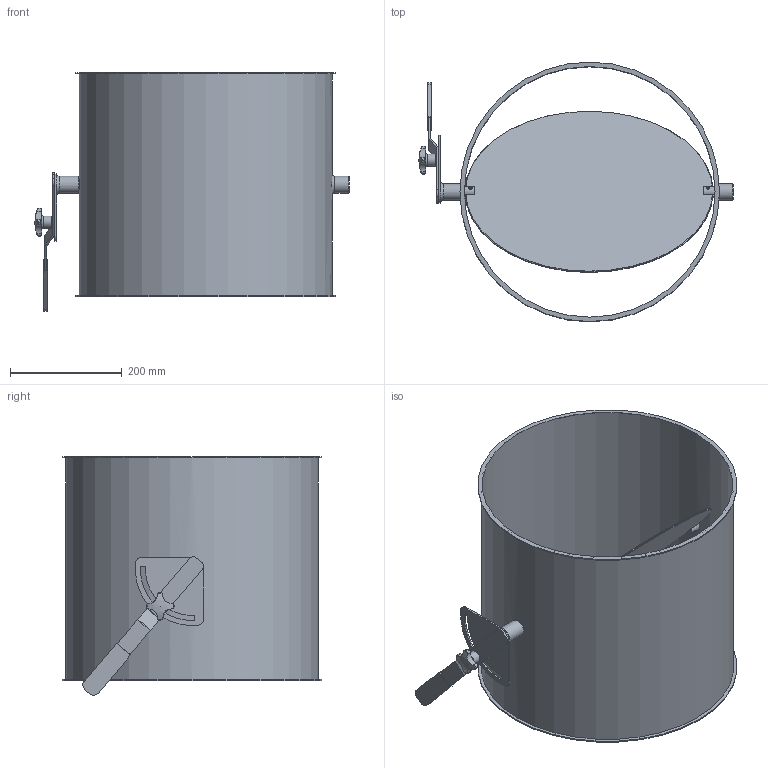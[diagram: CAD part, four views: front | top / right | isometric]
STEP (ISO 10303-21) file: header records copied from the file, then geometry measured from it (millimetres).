
FILE_DESCRIPTION((''),'2;1');
FILE_NAME('U:\Wolfgang\Marcel-3D\fertig\Kapitel 8\4521075.stp','2012-01-13T11:23:33',('iwienholt'),(''),'Autodesk Inventor 2010','Autodesk Inventor 2010','');
FILE_SCHEMA(('AUTOMOTIVE_DESIGN { 1 0 10303 214 1 1 1 1 }'));
Length unit declared in the file: millimetre
Products named in the file (7): 4521075; Bolzen D20; ganter_din_6335-ku-50-m10-k; Griff D20; Scheibe450; Umstellsegment D20; 4521075-1
Assembly tree (6 placements, depth 2):
  4521075
    Bolzen D20
    ganter_din_6335-ku-50-m10-k
    Griff D20
    Scheibe450
    Umstellsegment D20
    4521075-1
Bounding box: 562 x 464 x 426.07 mm (x, y, z)
Volume: 1790182.8 mm3; surface area: 1552857.4 mm2
Topology: 6 solids, 6 shells, 119 faces, 304 edges, 206 vertices
Faces by surface type: plane 51, cylinder 46, torus 9, bspline 7, cone 5, sphere 1
Full cylindrical faces by diameter (mm): 6 x4, 8 x1, 9 x1, 10 x2, 16 x1, 20 x6, 22 x1, 30 x3, 444 x1, 448 x1, 452 x1, 464 x2
Entity records: 4459 total; most frequent: CARTESIAN_POINT 1594, DIRECTION 566, ORIENTED_EDGE 492, EDGE_CURVE 246, AXIS2_PLACEMENT_3D 240, EDGE_LOOP 188, VERTEX_POINT 186, FACE_OUTER_BOUND 119
